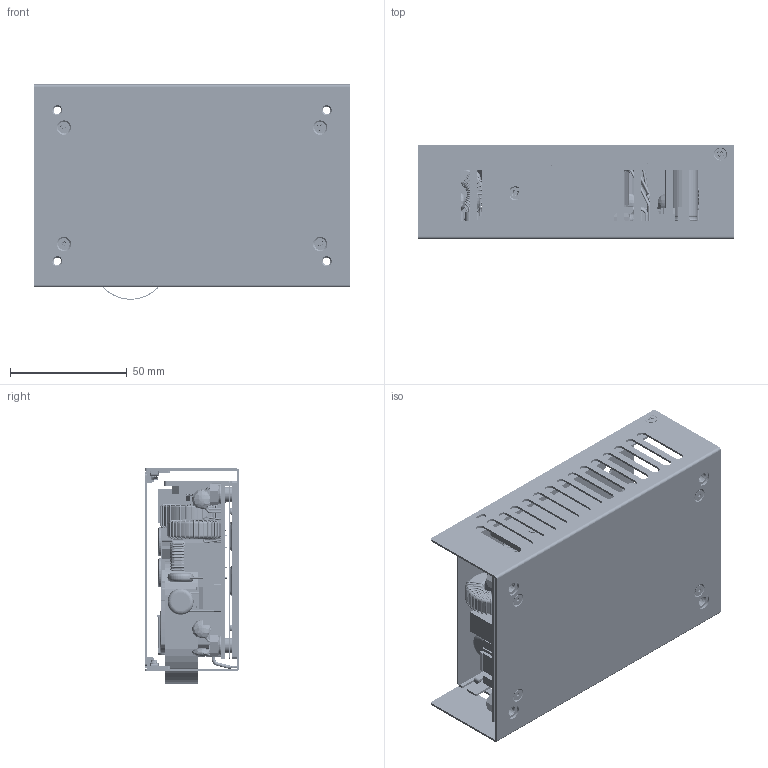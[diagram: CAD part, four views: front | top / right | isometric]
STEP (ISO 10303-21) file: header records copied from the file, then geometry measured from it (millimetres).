
FILE_DESCRIPTION (( 'STEP AP203' ), '1' );
FILE_NAME ('CFM300MXXXC&CFM300SXXXC¦¨«~¹Ï-1130726.STEP', '2024-10-18T01:37:18', ( 'cincon' ), ( '' ), 'SwSTEP 2.0', 'SolidWorks 2020', '' );
FILE_SCHEMA (( 'CONFIG_CONTROL_DESIGN' ));
Length unit declared in the file: millimetre
Products named in the file (51): OptoCoupler TLP521-2; CFM300M CY4 ; CFM300M L7-1080904; CFM300M電容 12.7x27; CFM300M CY1; CFM300M變壓器L4示意圖; CFM300M 18.2x26.2mm電容; CFM300M 2 PIN(3孔)7.92插座示意圖; 橋式整流器電晶體-1030307; Header 2_54 Horizontal 3x; CFM300M 8.2x16.4mm電容; 螺母M5-1030904; 螺母M3齒型華司-1030307; CFM300M PCB2變壓器示意圖; CFM300M PCB(03)-B-1080903; CFM300M CY5 ; CFM300M FORMEX GK-17 G612911A004-1060823; 平頭十字螺絲 M3x5mm(M-H003-00-S)G75A1100662; CFM300M Z1; CFM300M鋁板散熱片(M-B123-03-J)-1050105; CFM300M L5 示意圖; 平頭十字螺絲 M3x4mm; CFM300M變壓器示意圖L1; CFM300M 10.2x20mm電容; CFM300M 6.4x5.6mm電容; M3x6螺絲端子座示意圖 102,08,29; Header 2_54 Horizontal 5x; CFM300M-C 3x5金屬外殼下蓋(M-B127-01-J)-1041001; CFM300MXXXC&CFM300SXXXC成品圖-1130726; CF300M-C金屬外殼下蓋(M-B127-01-J)-1041001; CFM300M六角銅柱M5-1040518; CFM300M 6.4x10.4mm電容; CFM300MXXX(M-B068-02-F)(V1.3)&CFM300SXXX(M-B076-01-F)(V1.2) 成品圖-1130726; CFM300M 6PIN插座示意圖; 4PIN插座; ｼuﾂｮｵﾘ･q｣p5.2mmｲﾕｸﾋ･ﾜｷN; CFM300M PCB(03)-1080903; CFM300M-C上蓋(M-B126-01-J)-1041001; CFM201S LF2; LDM100 VR(GF063P1) 100,12,28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
Assembly tree (70 placements, depth 4):
  CFM300MXXXC&CFM300SXXXC成品圖-1130726
    CF300M-C金屬外殼下蓋(M-B127-01-J)-1041001
      CFM300M-C 3x5金屬外殼下蓋(M-B127-01-J)-1041001
    CFM300M FORMEX GK-17 G612911A004-1060823
    平頭十字螺絲 M3x5mm(M-H003-00-S)G75A1100662  x2
    CFM300M-C上蓋(M-B126-01-J)-1041001
    平頭十字螺絲 M3x4mm  x4
    CFM300MXXX(M-B068-02-F)(V1.3)&CFM300SXXX(M-B076-01-F)(V1.2) 成品圖-1130726
      CFM300M PCB(03)-1080903
      CFM201S LF2
      CFM300M L7-1080904
      CFM300M Z1  x2
      CFM300M CY4 
      OptoCoupler TLP521-2  x5
      CFM300M CY4 
      CFM300M CY4 
      _2
      CFM300M CY1
      4PIN插座
      M3x6螺絲端子座示意圖 102,08,29
      M3x6螺絲端子座示意圖 102,08,29
      CFM300M CY4 
      LDM100 VR(GF063P1) 100,12,28
      橋式整流器電晶體-1030307
      CFM300M變壓器示意圖L1
      CFM300M 6PIN插座示意圖
      CFM300M變壓器L4示意圖
      CFM300M鋁板散熱片(M-B123-03-J)-1050105
        CFM300M六角銅柱M5-1040518  x4
        CFM300M鋁板散熱片(M-B123-03-J)-1050105
      M3x8L螺絲(M-C449-00-S)G75A1100643(頭徑5.0)碩品
      螺母M5-1030904  x4
      螺母M3齒型華司-1030307
      CFM300M 6.4x10.4mm電容
      CFM300M CY6 
      CFM300M CY7 
      CFM300M 2 PIN(3孔)7.92插座示意圖
      ｼuﾂｮｵﾘ･q｣p5.2mmｲﾕｸﾋ･ﾜｷN  x4
      CFM300M CY5 
      CFM300M PCB(03)-B-1080903
      CFM300M 18.2x26.2mm電容
      CFM300M 18.2x26.2mm電容
      CFM300M電容 12.7x27  x2
      CFM300M 10.2x20mm電容
      CFM300M 8.2x16.4mm電容  x2
      CFM300M 6.4x9.6mm電容
      CFM300M 6.4x5.6mm電容
      Header 2_54 Horizontal 5x
      Header 2_54 Horizontal 3x
      CFM300M L5 示意圖
      CFM300M PCB2變壓器示意圖
Bounding box: 136 x 40.43 x 92.3 mm (x, y, z)
Volume: 165370.3 mm3; surface area: 196373.6 mm2
Topology: 93 solids, 93 shells, 6840 faces, 19044 edges, 12189 vertices
Faces by surface type: plane 2562, cylinder 2357, bspline 915, torus 748, cone 258
Entity records: 257785 total; most frequent: CARTESIAN_POINT 105995, ORIENTED_EDGE 33700, DIRECTION 27805, EDGE_CURVE 16850, VERTEX_POINT 10828, AXIS2_PLACEMENT_3D 10261, LINE 7283, VECTOR 7283
